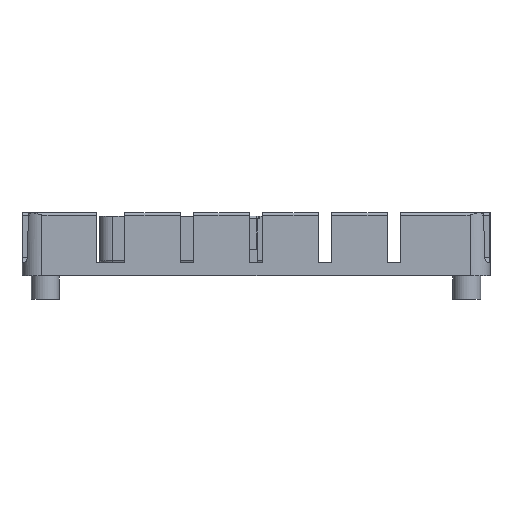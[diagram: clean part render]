
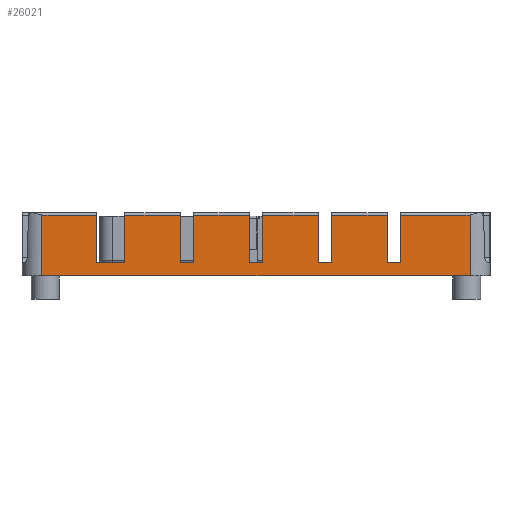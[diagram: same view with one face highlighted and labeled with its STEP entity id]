
A CAD part, front view. The second image highlights one B-rep face of the part: STEP entity #26021.
In plain terms, the highlighted planar face has unit normal (0, -1, 0.014).
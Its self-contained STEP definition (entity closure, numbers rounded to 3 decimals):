
#1282=DIRECTION('',(-1.,0.,0.));
#1283=VECTOR('',#1282,2.);
#1284=CARTESIAN_POINT('',(49.212,16.028,5.65));
#1285=LINE('',#1284,#1283);
#1290=DIRECTION('',(-1.,0.,0.));
#1291=VECTOR('',#1290,2.);
#1292=CARTESIAN_POINT('',(38.856,16.028,5.65));
#1293=LINE('',#1292,#1291);
#1302=DIRECTION('',(-1.,0.,0.));
#1303=VECTOR('',#1302,2.);
#1304=CARTESIAN_POINT('',(28.5,16.028,5.65));
#1305=LINE('',#1304,#1303);
#1314=DIRECTION('',(-1.,0.,0.));
#1315=VECTOR('',#1314,2.);
#1316=CARTESIAN_POINT('',(18.144,16.028,5.65));
#1317=LINE('',#1316,#1315);
#1322=DIRECTION('',(-1.,0.,0.));
#1323=VECTOR('',#1322,4.288);
#1324=CARTESIAN_POINT('',(7.788,16.028,5.65));
#1325=LINE('',#1324,#1323);
#6144=DIRECTION('',(1.,0.,0.));
#6145=VECTOR('',#6144,10.438);
#6146=CARTESIAN_POINT('',(49.212,16.125,12.758));
#6147=LINE('',#6146,#6145);
#6148=DIRECTION('',(0.,-0.014,-1.));
#6149=VECTOR('',#6148,9.106);
#6150=CARTESIAN_POINT('',(59.65,16.126,12.755));
#6151=LINE('',#6150,#6149);
#6152=DIRECTION('',(-1.,0.,0.));
#6153=VECTOR('',#6152,64.3);
#6154=CARTESIAN_POINT('',(59.65,16.,3.65));
#6155=LINE('',#6154,#6153);
#6156=DIRECTION('',(0.,0.014,1.));
#6157=VECTOR('',#6156,9.106);
#6158=CARTESIAN_POINT('',(-4.65,16.,3.65));
#6159=LINE('',#6158,#6157);
#6164=CARTESIAN_POINT('',(-4.65,16.,3.65));
#6336=DIRECTION('',(0.,0.014,1.));
#6337=VECTOR('',#6336,7.109);
#6338=CARTESIAN_POINT('',(3.5,16.028,5.65));
#6339=LINE('',#6338,#6337);
#6360=DIRECTION('',(-1.,0.,0.));
#6361=VECTOR('',#6360,8.15);
#6362=CARTESIAN_POINT('',(3.5,16.125,12.758));
#6363=LINE('',#6362,#6361);
#6670=DIRECTION('',(0.,-0.014,-1.));
#6671=VECTOR('',#6670,7.109);
#6672=CARTESIAN_POINT('',(7.788,16.125,12.758));
#6673=LINE('',#6672,#6671);
#6691=DIRECTION('',(0.,0.014,1.));
#6692=VECTOR('',#6691,7.109);
#6693=CARTESIAN_POINT('',(16.144,16.028,5.65));
#6694=LINE('',#6693,#6692);
#6706=DIRECTION('',(-1.,0.,0.));
#6707=VECTOR('',#6706,8.356);
#6708=CARTESIAN_POINT('',(16.144,16.125,12.758));
#6709=LINE('',#6708,#6707);
#6734=DIRECTION('',(0.,-0.014,-1.));
#6735=VECTOR('',#6734,7.109);
#6736=CARTESIAN_POINT('',(18.144,16.125,12.758));
#6737=LINE('',#6736,#6735);
#6755=DIRECTION('',(0.,0.014,1.));
#6756=VECTOR('',#6755,7.109);
#6757=CARTESIAN_POINT('',(26.5,16.028,5.65));
#6758=LINE('',#6757,#6756);
#6770=DIRECTION('',(-1.,0.,0.));
#6771=VECTOR('',#6770,8.356);
#6772=CARTESIAN_POINT('',(26.5,16.125,12.758));
#6773=LINE('',#6772,#6771);
#6798=DIRECTION('',(0.,-0.014,-1.));
#6799=VECTOR('',#6798,7.109);
#6800=CARTESIAN_POINT('',(28.5,16.125,12.758));
#6801=LINE('',#6800,#6799);
#6819=DIRECTION('',(0.,0.014,1.));
#6820=VECTOR('',#6819,7.109);
#6821=CARTESIAN_POINT('',(36.856,16.028,5.65));
#6822=LINE('',#6821,#6820);
#6838=DIRECTION('',(-1.,0.,0.));
#6839=VECTOR('',#6838,8.356);
#6840=CARTESIAN_POINT('',(36.856,16.125,12.758));
#6841=LINE('',#6840,#6839);
#6862=DIRECTION('',(0.,-0.014,-1.));
#6863=VECTOR('',#6862,7.109);
#6864=CARTESIAN_POINT('',(38.856,16.125,12.758));
#6865=LINE('',#6864,#6863);
#6878=DIRECTION('',(0.,0.014,1.));
#6879=VECTOR('',#6878,7.109);
#6880=CARTESIAN_POINT('',(47.212,16.028,5.65));
#6881=LINE('',#6880,#6879);
#6906=DIRECTION('',(-1.,0.,0.));
#6907=VECTOR('',#6906,8.356);
#6908=CARTESIAN_POINT('',(47.212,16.125,12.758));
#6909=LINE('',#6908,#6907);
#6930=DIRECTION('',(0.,-0.014,-1.));
#6931=VECTOR('',#6930,7.109);
#6932=CARTESIAN_POINT('',(49.212,16.125,12.758));
#6933=LINE('',#6932,#6931);
#16565=VERTEX_POINT('',#6164);
#16566=CARTESIAN_POINT('',(59.65,16.,3.65));
#16567=VERTEX_POINT('',#16566);
#16952=CARTESIAN_POINT('',(49.212,16.028,5.65));
#16953=VERTEX_POINT('',#16952);
#16954=CARTESIAN_POINT('',(47.212,16.028,5.65));
#16955=VERTEX_POINT('',#16954);
#16960=CARTESIAN_POINT('',(38.856,16.028,5.65));
#16961=VERTEX_POINT('',#16960);
#16962=CARTESIAN_POINT('',(36.856,16.028,5.65));
#16963=VERTEX_POINT('',#16962);
#16968=CARTESIAN_POINT('',(28.5,16.028,5.65));
#16969=VERTEX_POINT('',#16968);
#16970=CARTESIAN_POINT('',(26.5,16.028,5.65));
#16971=VERTEX_POINT('',#16970);
#16976=CARTESIAN_POINT('',(18.144,16.028,5.65));
#16977=VERTEX_POINT('',#16976);
#16978=CARTESIAN_POINT('',(16.144,16.028,5.65));
#16979=VERTEX_POINT('',#16978);
#16984=CARTESIAN_POINT('',(7.788,16.028,5.65));
#16985=VERTEX_POINT('',#16984);
#16986=CARTESIAN_POINT('',(3.5,16.028,5.65));
#16987=VERTEX_POINT('',#16986);
#20126=CARTESIAN_POINT('',(3.5,16.125,12.758));
#20127=VERTEX_POINT('',#20126);
#20219=CARTESIAN_POINT('',(49.212,16.125,12.758));
#20220=CARTESIAN_POINT('',(59.65,16.126,12.755));
#20221=VERTEX_POINT('',#20219);
#20222=VERTEX_POINT('',#20220);
#20223=CARTESIAN_POINT('',(-4.65,16.126,
12.755));
#20224=VERTEX_POINT('',#20223);
#20225=CARTESIAN_POINT('',(7.788,16.125,12.758));
#20226=VERTEX_POINT('',#20225);
#20227=CARTESIAN_POINT('',(16.144,16.125,12.758));
#20228=VERTEX_POINT('',#20227);
#20229=CARTESIAN_POINT('',(18.144,16.125,12.758));
#20230=VERTEX_POINT('',#20229);
#20231=CARTESIAN_POINT('',(26.5,16.125,12.758));
#20232=VERTEX_POINT('',#20231);
#20233=CARTESIAN_POINT('',(28.5,16.125,12.758));
#20234=VERTEX_POINT('',#20233);
#20235=CARTESIAN_POINT('',(36.856,16.125,12.758));
#20236=VERTEX_POINT('',#20235);
#20237=CARTESIAN_POINT('',(38.856,16.125,12.758));
#20238=VERTEX_POINT('',#20237);
#20239=CARTESIAN_POINT('',(47.212,16.125,12.758));
#20240=VERTEX_POINT('',#20239);
#25974=CARTESIAN_POINT('',(-7.007,16.,3.65));
#25975=DIRECTION('',(0.,-1.,0.014));
#25976=DIRECTION('',(1.,0.,0.));
#25977=AXIS2_PLACEMENT_3D('',#25974,#25975,#25976);
#25978=PLANE('',#25977);
#25979=ORIENTED_EDGE('',*,*,#25967,.T.);
#25980=ORIENTED_EDGE('',*,*,#25476,.T.);
#25981=ORIENTED_EDGE('',*,*,#24275,.T.);
#25983=ORIENTED_EDGE('',*,*,#25982,.T.);
#25985=ORIENTED_EDGE('',*,*,#25984,.F.);
#25987=ORIENTED_EDGE('',*,*,#25986,.F.);
#25988=ORIENTED_EDGE('',*,*,#20771,.F.);
#25990=ORIENTED_EDGE('',*,*,#25989,.F.);
#25992=ORIENTED_EDGE('',*,*,#25991,.F.);
#25994=ORIENTED_EDGE('',*,*,#25993,.F.);
#25995=ORIENTED_EDGE('',*,*,#20763,.F.);
#25997=ORIENTED_EDGE('',*,*,#25996,.F.);
#25999=ORIENTED_EDGE('',*,*,#25998,.F.);
#26001=ORIENTED_EDGE('',*,*,#26000,.F.);
#26002=ORIENTED_EDGE('',*,*,#20755,.F.);
#26004=ORIENTED_EDGE('',*,*,#26003,.F.);
#26006=ORIENTED_EDGE('',*,*,#26005,.F.);
#26008=ORIENTED_EDGE('',*,*,#26007,.F.);
#26009=ORIENTED_EDGE('',*,*,#20747,.F.);
#26011=ORIENTED_EDGE('',*,*,#26010,.F.);
#26013=ORIENTED_EDGE('',*,*,#26012,.F.);
#26015=ORIENTED_EDGE('',*,*,#26014,.F.);
#26016=ORIENTED_EDGE('',*,*,#20739,.F.);
#26018=ORIENTED_EDGE('',*,*,#26017,.F.);
#26019=EDGE_LOOP('',(#25979,#25980,#25981,#25983,#25985,#25987,#25988,#25990,
#25992,#25994,#25995,#25997,#25999,#26001,#26002,#26004,#26006,#26008,#26009,
#26011,#26013,#26015,#26016,#26018));
#26020=FACE_OUTER_BOUND('',#26019,.F.);
#26021=ADVANCED_FACE('',(#26020),#25978,.T.);
#20739=EDGE_CURVE('',#16953,#16955,#1285,.T.);
#20747=EDGE_CURVE('',#16961,#16963,#1293,.T.);
#20755=EDGE_CURVE('',#16969,#16971,#1305,.T.);
#20763=EDGE_CURVE('',#16977,#16979,#1317,.T.);
#20771=EDGE_CURVE('',#16985,#16987,#1325,.T.);
#24275=EDGE_CURVE('',#16567,#16565,#6155,.T.);
#25476=EDGE_CURVE('',#20222,#16567,#6151,.T.);
#25967=EDGE_CURVE('',#20221,#20222,#6147,.T.);
#25982=EDGE_CURVE('',#16565,#20224,#6159,.T.);
#25984=EDGE_CURVE('',#20127,#20224,#6363,.T.);
#25986=EDGE_CURVE('',#16987,#20127,#6339,.T.);
#25989=EDGE_CURVE('',#20226,#16985,#6673,.T.);
#25991=EDGE_CURVE('',#20228,#20226,#6709,.T.);
#25993=EDGE_CURVE('',#16979,#20228,#6694,.T.);
#25996=EDGE_CURVE('',#20230,#16977,#6737,.T.);
#25998=EDGE_CURVE('',#20232,#20230,#6773,.T.);
#26000=EDGE_CURVE('',#16971,#20232,#6758,.T.);
#26003=EDGE_CURVE('',#20234,#16969,#6801,.T.);
#26005=EDGE_CURVE('',#20236,#20234,#6841,.T.);
#26007=EDGE_CURVE('',#16963,#20236,#6822,.T.);
#26010=EDGE_CURVE('',#20238,#16961,#6865,.T.);
#26012=EDGE_CURVE('',#20240,#20238,#6909,.T.);
#26014=EDGE_CURVE('',#16955,#20240,#6881,.T.);
#26017=EDGE_CURVE('',#20221,#16953,#6933,.T.);
